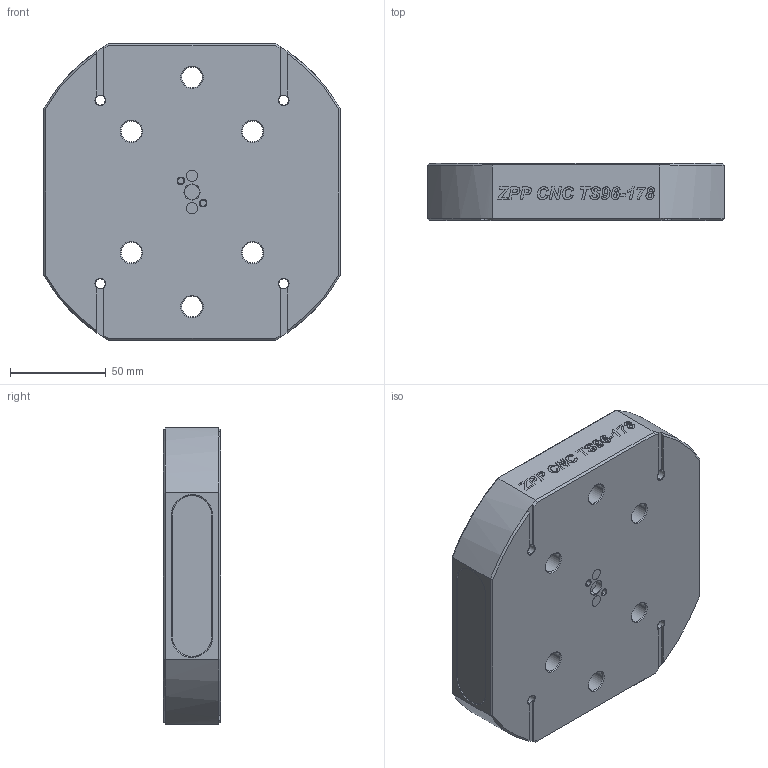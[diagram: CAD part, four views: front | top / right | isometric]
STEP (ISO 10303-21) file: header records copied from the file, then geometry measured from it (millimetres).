
FILE_DESCRIPTION((''),'2;1');
FILE_NAME('TS96-178','2025-05-06T14:48:37',('XF'),(''),'CREO PARAMETRIC BY PTC INC, 2023073','CREO PARAMETRIC BY PTC INC, 2023073','');
FILE_SCHEMA(('CONFIG_CONTROL_DESIGN'));
Length unit declared in the file: millimetre
Products named in the file (1): TS96-178
Bounding box: 155 x 30 x 155.2 mm (x, y, z)
Volume: 602620.5 mm3; surface area: 74468.5 mm2
Topology: 1 solids, 5 shells, 748 faces, 2010 edges, 1316 vertices
Faces by surface type: extrusion 368, plane 218, cylinder 78, cone 72, torus 12
Entity records: 25098 total; most frequent: CARTESIAN_POINT 7640, ORIENTED_EDGE 3988, DIRECTION 2608, EDGE_CURVE 2002, VECTOR 1326, VERTEX_POINT 1316, B_SPLINE_CURVE_WITH_KNOTS 1152, LINE 958
